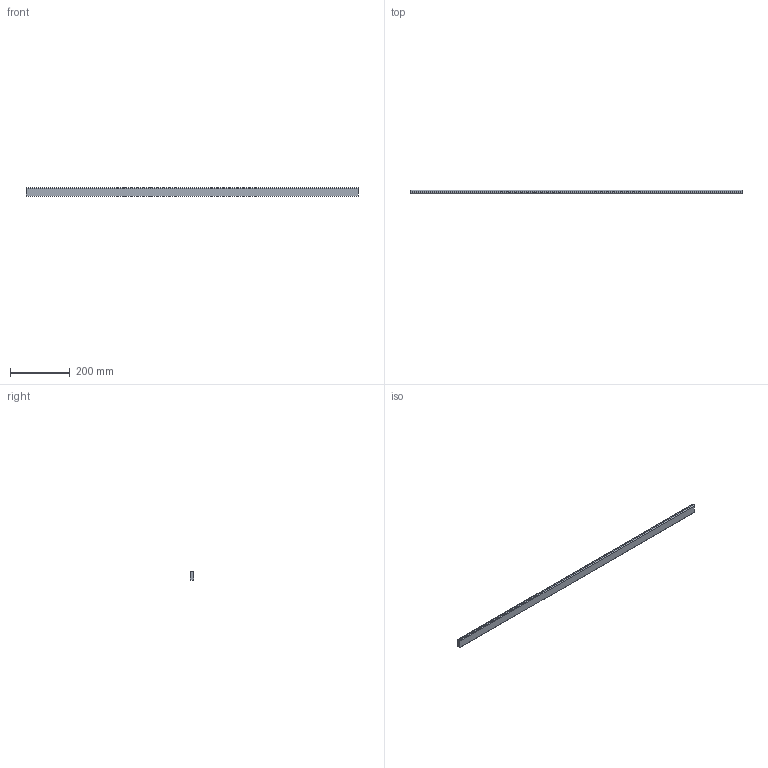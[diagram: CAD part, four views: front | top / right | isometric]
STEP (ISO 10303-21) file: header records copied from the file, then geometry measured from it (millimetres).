
FILE_DESCRIPTION (( 'STEP AP214' ), '1' );
FILE_NAME ('_Querreling_KAB-1200_KS-16.step', '2010-08-26T14:59:06', ( 'grass' ), ( '' ), 'SwSTEP 2.0', 'SolidWorks 2009', '' );
FILE_SCHEMA (( 'AUTOMOTIVE_DESIGN' ));
Length unit declared in the file: millimetre
Products named in the file (1): _Querreling_KAB-1200_KS-16
Bounding box: 1112.5 x 10.5 x 30 mm (x, y, z)
Volume: 345662.6 mm3; surface area: 86914 mm2
Topology: 1 solids, 1 shells, 10 faces, 24 edges, 16 vertices
Faces by surface type: plane 6, cylinder 4
Entity records: 330 total; most frequent: DIRECTION 54, CARTESIAN_POINT 51, ORIENTED_EDGE 48, EDGE_CURVE 24, AXIS2_PLACEMENT_3D 19, LINE 16, VECTOR 16, VERTEX_POINT 16
